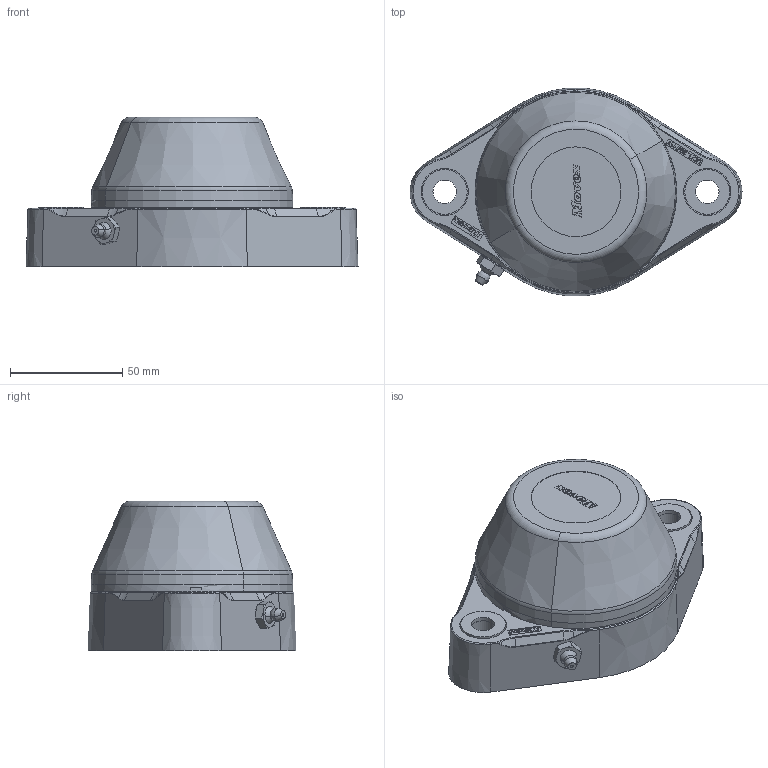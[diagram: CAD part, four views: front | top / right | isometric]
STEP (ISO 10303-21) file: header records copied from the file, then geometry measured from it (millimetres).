
FILE_DESCRIPTION(('CATIA V5 STEP Exchange'),'2;1');
FILE_NAME('\\server01\tecnico\CODICI MOVEX\3D per clienti\Artur Adamusiak\23-09-2013\P80303_01.stp','2013-09-23T12:05:20+00:00',('none'),('none'),'CATIA Version 5 Release 21 SP 1 (IN-10)','CATIA V5 STEP AP203','none');
FILE_SCHEMA(('CONFIG_CONTROL_DESIGN'));
Length unit declared in the file: millimetre
Products named in the file (1): Product1
Assembly tree (10 placements, depth 2):
  Product1
    #58
    #73975  x2
    #74159  x2
    #74439
    #77687
    #78595
    #78703
    #93906
Bounding box: 147.93 x 92.63 x 66.52 mm (x, y, z)
Volume: 190648.4 mm3; surface area: 125908 mm2
Topology: 31 solids, 32 shells, 2818 faces, 7667 edges, 4857 vertices
Faces by surface type: plane 1981, cylinder 341, bspline 158, sphere 127, torus 96, cone 95, revolution 20
Entity records: 95305 total; most frequent: CARTESIAN_POINT 28161, ORIENTED_EDGE 15008, DIRECTION 11624, EDGE_CURVE 7504, VECTOR 6044, LINE 6044, VERTEX_POINT 4837, AXIS2_PLACEMENT_3D 3183
